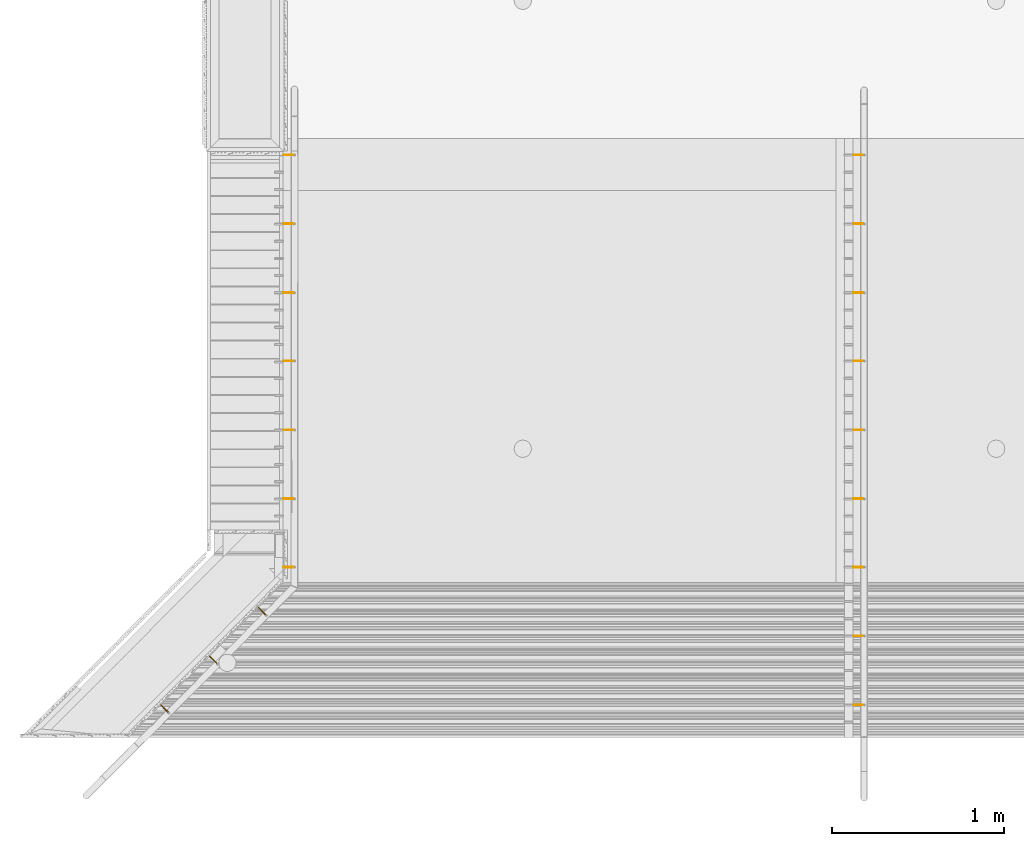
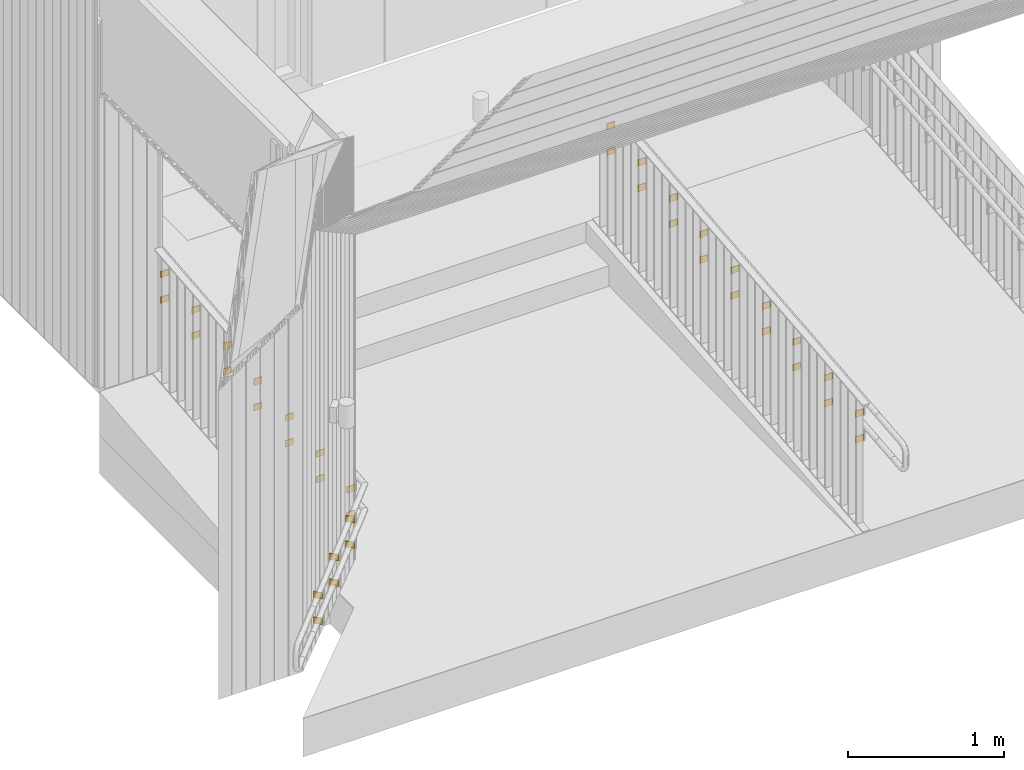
# One storey, part 165 of 418: 38 railings.
"""IFC2X3 building model written with IfcOpenShell, lengths in millimetres."""

from ifc_helpers import new_model, entity, si_unit, converted_unit, derived_unit, money_unit, direction, frame, origin_with_axes, place, context, subcontext, project, spatial, polyline, outline, extrude, material, type_object, element, save


model = new_model("IFC2X3")

# Units and contexts
model_context = context("Model", 3, precision=0.01, world=origin_with_axes(), true_north=direction((0.0, 1.0)))
body_context = subcontext(model_context, "Body", "Model", "MODEL_VIEW")
ifc_project = project(units=[si_unit("LENGTHUNIT", "METRE", prefix="MILLI"), si_unit("AREAUNIT", "SQUARE_METRE"), si_unit("VOLUMEUNIT", "CUBIC_METRE"), converted_unit("PLANEANGLEUNIT", "DEGREE", entity("IfcPlaneAngleMeasure", 0.0174532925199), si_unit("PLANEANGLEUNIT", "RADIAN"), dimensions=[0, 0, 0, 0, 0, 0, 0]), si_unit("SOLIDANGLEUNIT", "STERADIAN"), money_unit("EUR"), converted_unit("TIMEUNIT", "Year", entity("IfcTimeMeasure", 31556926.0), si_unit("TIMEUNIT", "SECOND"), dimensions=[0, 0, 1, 0, 0, 0, 0]), si_unit("MASSUNIT", "GRAM", prefix="KILO"), si_unit("THERMODYNAMICTEMPERATUREUNIT", "DEGREE_CELSIUS"), si_unit("LUMINOUSINTENSITYUNIT", "LUMEN"), si_unit("ENERGYUNIT", "JOULE", prefix="MEGA"), derived_unit("THERMALCONDUCTANCEUNIT", [(si_unit("POWERUNIT", "WATT"), 1), (si_unit("LENGTHUNIT", "METRE"), -1), (si_unit("THERMODYNAMICTEMPERATUREUNIT", "KELVIN"), -1)]), derived_unit("SPECIFICHEATCAPACITYUNIT", [(si_unit("ENERGYUNIT", "JOULE"), 1), (si_unit("MASSUNIT", "GRAM", prefix="KILO"), -1), (si_unit("THERMODYNAMICTEMPERATUREUNIT", "KELVIN"), -1)]), derived_unit("MASSDENSITYUNIT", [(si_unit("MASSUNIT", "GRAM", prefix="KILO"), 1), (si_unit("VOLUMEUNIT", "CUBIC_METRE"), -1)])], contexts=[model_context])

# Site, building, storey
site_placement = place(None, origin_with_axes())
site = spatial("IfcSite", under=ifc_project, at=site_placement, Name="Paldiski mnt 245/1, Tallinn, Harjumaa", CompositionType="COMPLEX")
building_placement = place(site_placement, origin_with_axes())
building = spatial("IfcBuilding", under=site, at=building_placement, Name="RKAS Hoone üldnimetus (kasutust iseloomustav) -> IFC Project Manager -> SOLIBRI", CompositionType="ELEMENT")
storey_placement = place(building_placement, origin_with_axes())
storey = spatial("IfcBuildingStorey", under=building, at=storey_placement, Name="Esimene korrus", CompositionType="ELEMENT", Elevation=0.0)

# Railings
ifc_material = material(Name="RAL7016")
railing_type = type_object("IfcRailingType", Name="RAL7016 50", PredefinedType="NOTDEFINED")
railing_1_placement = place(storey_placement, frame((-44261.1047143, -17949.6369404, 305.545327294), z_axis=(0.0, 0.0, 1.0), x_axis=(1.0, 0.0, 0.0)))
element("IfcRailing", 1, at=railing_1_placement, inside=storey, type_object=railing_type, material=ifc_material, Name="Piire", PredefinedType="NOTDEFINED", context=body_context, shape_type="SweptSolid", body=[
    extrude(outline(polyline([(0.0, 0.0), (-3.53553390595, -3.53553390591), (38.8908729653, -45.9619407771), (42.4264068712, -42.4264068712), (0.0, 0.0)])), frame((0.0, 0.0, -50.0), z_axis=(0.0, 0.0, 1.0), x_axis=(1.0, 0.0, 0.0)), (0.0, 0.0, 1.0), 50.0),
])
for number, where, z_axis, x_axis in (
    (2, (-44119.0, -17714.5901323, 335.178432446), (0.0, 0.0, 1.0), (1.0, 0.0, 0.0)),
    (3, (-44119.0, -16518.5901323, 454.778511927), (0.0, 0.0, 1.0), (1.0, 0.0, 0.0)),
    (4, (-44119.0, -16518.5901323, 655.200411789), (0.0, 0.0, 1.0), (1.0, 0.0, 0.0)),
):
    element("IfcRailing", number, at=place(storey_placement, frame(where, z_axis=z_axis, x_axis=x_axis)), inside=storey, type_object=railing_type, material=ifc_material, Name="Piire", PredefinedType="NOTDEFINED", context=body_context, shape_type="SweptSolid", body=[
        extrude(outline(polyline([(0.0, 0.0), (0.0, -4.99999999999), (60.0, -4.99999999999), (60.0, 0.0), (0.0, 0.0)])), frame((0.0, 0.0, -50.0), z_axis=(0.0, 0.0, 1.0), x_axis=(1.0, 0.0, 0.0)), (0.0, 0.0, 1.0), 50.0),
    ])
railing_2_placement = place(storey_placement, frame((-40810.9992191, -18114.5843011, 495.600301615), z_axis=(0.0, 0.0, 1.0), x_axis=(1.0, 0.0, 0.0)))
element("IfcRailing", 5, at=railing_2_placement, inside=storey, type_object=railing_type, material=ifc_material, Name="Piire", PredefinedType="NOTDEFINED", context=body_context, shape_type="SweptSolid", body=[
    extrude(outline(polyline([(0.0, 0.0), (0.0, -5.0), (60.0, -4.99999999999), (60.0, 0.0), (0.0, 0.0)])), frame((0.0, 0.0, -50.0), z_axis=(0.0, 0.0, 1.0), x_axis=(1.0, 0.0, 0.0)), (0.0, 0.0, 1.0), 50.0),
])
for number, where, z_axis, x_axis in (
    (6, (-40810.9992191, -15722.5843011, 734.800460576), (0.0, 0.0, 1.0), (1.0, 0.0, 0.0)),
    (7, (-40810.9992191, -15722.5843011, 534.378560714), (0.0, 0.0, 1.0), (1.0, 0.0, 0.0)),
):
    element("IfcRailing", number, at=place(storey_placement, frame(where, z_axis=z_axis, x_axis=x_axis)), inside=storey, type_object=railing_type, material=ifc_material, Name="Piire", PredefinedType="NOTDEFINED", context=body_context, shape_type="SweptSolid", body=[
        extrude(outline(polyline([(0.0, 0.0), (0.0, -4.99999999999), (60.0, -4.99999999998), (60.0, 0.0), (0.0, 0.0)])), frame((0.0, 0.0, -50.0), z_axis=(0.0, 0.0, 1.0), x_axis=(1.0, 0.0, 0.0)), (0.0, 0.0, 1.0), 50.0),
    ])
railing_3_placement = place(storey_placement, frame((-40810.9992191, -18114.5843011, 295.178401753), z_axis=(0.0, 0.0, 1.0), x_axis=(1.0, 0.0, 0.0)))
element("IfcRailing", 8, at=railing_3_placement, inside=storey, type_object=railing_type, material=ifc_material, Name="Piire", PredefinedType="NOTDEFINED", context=body_context, shape_type="SweptSolid", body=[
    extrude(outline(polyline([(0.0, 0.0), (0.0, -5.0), (60.0, -4.99999999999), (60.0, 0.0), (0.0, 0.0)])), frame((0.0, 0.0, -50.0), z_axis=(0.0, 0.0, 1.0), x_axis=(1.0, 0.0, 0.0)), (0.0, 0.0, 1.0), 50.0),
])
for number, where, z_axis, x_axis in (
    (9, (-40810.9992191, -16918.5843011, 615.200385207), (0.0, 0.0, 1.0), (1.0, 0.0, 0.0)),
    (10, (-40810.9992191, -16918.5843011, 414.778485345), (0.0, 0.0, 1.0), (1.0, 0.0, 0.0)),
):
    element("IfcRailing", number, at=place(storey_placement, frame(where, z_axis=z_axis, x_axis=x_axis)), inside=storey, type_object=railing_type, material=ifc_material, Name="Piire", PredefinedType="NOTDEFINED", context=body_context, shape_type="SweptSolid", body=[
        extrude(outline(polyline([(0.0, 0.0), (0.0, -5.0), (60.0, -4.99999999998), (60.0, 0.0), (0.0, 0.0)])), frame((0.0, 0.0, -50.0), z_axis=(0.0, 0.0, 1.0), x_axis=(1.0, 0.0, 0.0)), (0.0, 0.0, 1.0), 50.0),
    ])
for number, where, z_axis, x_axis in (
    (11, (-40810.9992191, -16122.5843011, 494.378538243), (0.0, 0.0, 1.0), (1.0, 0.0, 0.0)),
    (12, (-40810.9992191, -18514.5843011, 255.178379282), (0.0, 0.0, 1.0), (1.0, 0.0, 0.0)),
):
    element("IfcRailing", number, at=place(storey_placement, frame(where, z_axis=z_axis, x_axis=x_axis)), inside=storey, type_object=railing_type, material=ifc_material, Name="Piire", PredefinedType="NOTDEFINED", context=body_context, shape_type="SweptSolid", body=[
        extrude(outline(polyline([(0.0, 0.0), (0.0, -4.99999999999), (60.0, -4.99999999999), (60.0, 0.0), (0.0, 0.0)])), frame((0.0, 0.0, -50.0), z_axis=(0.0, 0.0, 1.0), x_axis=(1.0, 0.0, 0.0)), (0.0, 0.0, 1.0), 50.0),
    ])
for number, where, z_axis, x_axis in (
    (13, (-40810.9992191, -15322.5843011, 574.378591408), (0.0, 0.0, 1.0), (1.0, 0.0, 0.0)),
    (14, (-40810.9992191, -15322.5843011, 774.80049127), (0.0, 0.0, 1.0), (1.0, 0.0, 0.0)),
):
    element("IfcRailing", number, at=place(storey_placement, frame(where, z_axis=z_axis, x_axis=x_axis)), inside=storey, type_object=railing_type, material=ifc_material, Name="Piire", PredefinedType="NOTDEFINED", context=body_context, shape_type="SweptSolid", body=[
        extrude(outline(polyline([(0.0, 0.0), (0.0, -5.0), (60.0, -5.0), (60.0, 0.0), (0.0, 0.0)])), frame((0.0, 0.0, -50.0), z_axis=(0.0, 0.0, 1.0), x_axis=(1.0, 0.0, 0.0)), (0.0, 0.0, 1.0), 50.0),
    ])
for number, where, z_axis, x_axis in (
    (15, (-40810.9992191, -17714.5843011, 335.178432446), (0.0, 0.0, 1.0), (1.0, 0.0, 0.0)),
    (16, (-40810.9992191, -18514.5843011, 455.600279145), (0.0, 0.0, 1.0), (1.0, 0.0, 0.0)),
    (17, (-40810.9992191, -16122.5843011, 694.800438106), (0.0, 0.0, 1.0), (1.0, 0.0, 0.0)),
):
    element("IfcRailing", number, at=place(storey_placement, frame(where, z_axis=z_axis, x_axis=x_axis)), inside=storey, type_object=railing_type, material=ifc_material, Name="Piire", PredefinedType="NOTDEFINED", context=body_context, shape_type="SweptSolid", body=[
        extrude(outline(polyline([(0.0, 0.0), (0.0, -4.99999999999), (60.0, -4.99999999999), (60.0, 0.0), (0.0, 0.0)])), frame((0.0, 0.0, -50.0), z_axis=(0.0, 0.0, 1.0), x_axis=(1.0, 0.0, 0.0)), (0.0, 0.0, 1.0), 50.0),
    ])
for number, where, z_axis, x_axis in (
    (18, (-40810.9992191, -17318.5843011, 374.778454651), (0.0, 0.0, 1.0), (1.0, 0.0, 0.0)),
    (19, (-40810.9992191, -17318.5843011, 575.200354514), (0.0, 0.0, 1.0), (1.0, 0.0, 0.0)),
):
    element("IfcRailing", number, at=place(storey_placement, frame(where, z_axis=z_axis, x_axis=x_axis)), inside=storey, type_object=railing_type, material=ifc_material, Name="Piire", PredefinedType="NOTDEFINED", context=body_context, shape_type="SweptSolid", body=[
        extrude(outline(polyline([(0.0, 0.0), (0.0, -5.0), (60.0, -4.99999999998), (60.0, 0.0), (0.0, 0.0)])), frame((0.0, 0.0, -50.0), z_axis=(0.0, 0.0, 1.0), x_axis=(1.0, 0.0, 0.0)), (0.0, 0.0, 1.0), 50.0),
    ])
for number, where, z_axis, x_axis in (
    (20, (-40810.9992191, -16518.5843011, 655.200411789), (0.0, 0.0, 1.0), (1.0, 0.0, 0.0)),
    (21, (-40810.9992191, -16518.5843011, 454.778511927), (0.0, 0.0, 1.0), (1.0, 0.0, 0.0)),
    (22, (-40810.9992191, -17714.5843011, 535.600332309), (0.0, 0.0, 1.0), (1.0, 0.0, 0.0)),
):
    element("IfcRailing", number, at=place(storey_placement, frame(where, z_axis=z_axis, x_axis=x_axis)), inside=storey, type_object=railing_type, material=ifc_material, Name="Piire", PredefinedType="NOTDEFINED", context=body_context, shape_type="SweptSolid", body=[
        extrude(outline(polyline([(0.0, 0.0), (0.0, -4.99999999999), (60.0, -4.99999999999), (60.0, 0.0), (0.0, 0.0)])), frame((0.0, 0.0, -50.0), z_axis=(0.0, 0.0, 1.0), x_axis=(1.0, 0.0, 0.0)), (0.0, 0.0, 1.0), 50.0),
    ])
railing_4_placement = place(storey_placement, frame((-44543.9474268, -18232.4796529, 277.606046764), z_axis=(0.0, 0.0, 1.0), x_axis=(1.0, 0.0, 0.0)))
element("IfcRailing", 23, at=railing_4_placement, inside=storey, type_object=railing_type, material=ifc_material, Name="Piire", PredefinedType="NOTDEFINED", context=body_context, shape_type="SweptSolid", body=[
    extrude(outline(polyline([(0.0, 0.0), (-3.53553390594, -3.53553390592), (38.8908729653, -45.9619407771), (42.4264068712, -42.4264068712), (0.0, 0.0)])), frame((0.0, 0.0, -50.0), z_axis=(0.0, 0.0, 1.0), x_axis=(1.0, 0.0, 0.0)), (0.0, 0.0, 1.0), 50.0),
])
railing_5_placement = place(storey_placement, frame((-44119.0, -15722.5901323, 734.800460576), z_axis=(0.0, 0.0, 1.0), x_axis=(1.0, 0.0, 0.0)))
element("IfcRailing", 24, at=railing_5_placement, inside=storey, type_object=railing_type, material=ifc_material, Name="Piire", PredefinedType="NOTDEFINED", context=body_context, shape_type="SweptSolid", body=[
    extrude(outline(polyline([(0.0, 0.0), (0.0, -4.99999999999), (60.0, -4.99999999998), (60.0, 0.0), (0.0, 0.0)])), frame((0.0, 0.0, -50.0), z_axis=(0.0, 0.0, 1.0), x_axis=(1.0, 0.0, 0.0)), (0.0, 0.0, 1.0), 50.0),
])
railing_6_placement = place(storey_placement, frame((-44119.0, -15322.5901323, 774.80049127), z_axis=(0.0, 0.0, 1.0), x_axis=(1.0, 0.0, 0.0)))
element("IfcRailing", 25, at=railing_6_placement, inside=storey, type_object=railing_type, material=ifc_material, Name="Piire", PredefinedType="NOTDEFINED", context=body_context, shape_type="SweptSolid", body=[
    extrude(outline(polyline([(0.0, 0.0), (0.0, -5.0), (60.0, -4.99999999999), (60.0, 0.0), (0.0, 0.0)])), frame((0.0, 0.0, -50.0), z_axis=(0.0, 0.0, 1.0), x_axis=(1.0, 0.0, 0.0)), (0.0, 0.0, 1.0), 50.0),
])
railing_7_placement = place(storey_placement, frame((-44261.1047143, -17949.6369404, 505.196086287), z_axis=(0.0, 0.0, 1.0), x_axis=(1.0, 0.0, 0.0)))
element("IfcRailing", 26, at=railing_7_placement, inside=storey, type_object=railing_type, material=ifc_material, Name="Piire", PredefinedType="NOTDEFINED", context=body_context, shape_type="SweptSolid", body=[
    extrude(outline(polyline([(0.0, 0.0), (-3.53553390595, -3.53553390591), (38.8908729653, -45.9619407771), (42.4264068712, -42.4264068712), (0.0, 0.0)])), frame((0.0, 0.0, -50.0), z_axis=(0.0, 0.0, 1.0), x_axis=(1.0, 0.0, 0.0)), (0.0, 0.0, 1.0), 50.0),
])
railing_8_placement = place(storey_placement, frame((-44119.0, -15322.5901323, 574.378591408), z_axis=(0.0, 0.0, 1.0), x_axis=(1.0, 0.0, 0.0)))
element("IfcRailing", 27, at=railing_8_placement, inside=storey, type_object=railing_type, material=ifc_material, Name="Piire", PredefinedType="NOTDEFINED", context=body_context, shape_type="SweptSolid", body=[
    extrude(outline(polyline([(0.0, 0.0), (0.0, -5.0), (60.0, -4.99999999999), (60.0, 0.0), (0.0, 0.0)])), frame((0.0, 0.0, -50.0), z_axis=(0.0, 0.0, 1.0), x_axis=(1.0, 0.0, 0.0)), (0.0, 0.0, 1.0), 50.0),
])
railing_9_placement = place(storey_placement, frame((-44119.0, -16122.5901323, 494.378538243), z_axis=(0.0, 0.0, 1.0), x_axis=(1.0, 0.0, 0.0)))
element("IfcRailing", 28, at=railing_9_placement, inside=storey, type_object=railing_type, material=ifc_material, Name="Piire", PredefinedType="NOTDEFINED", context=body_context, shape_type="SweptSolid", body=[
    extrude(outline(polyline([(0.0, 0.0), (0.0, -4.99999999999), (60.0, -4.99999999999), (60.0, 0.0), (0.0, 0.0)])), frame((0.0, 0.0, -50.0), z_axis=(0.0, 0.0, 1.0), x_axis=(1.0, 0.0, 0.0)), (0.0, 0.0, 1.0), 50.0),
])
railing_10_placement = place(storey_placement, frame((-44119.0, -15722.5901323, 534.378560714), z_axis=(0.0, 0.0, 1.0), x_axis=(1.0, 0.0, 0.0)))
element("IfcRailing", 29, at=railing_10_placement, inside=storey, type_object=railing_type, material=ifc_material, Name="Piire", PredefinedType="NOTDEFINED", context=body_context, shape_type="SweptSolid", body=[
    extrude(outline(polyline([(0.0, 0.0), (0.0, -4.99999999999), (60.0, -4.99999999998), (60.0, 0.0), (0.0, 0.0)])), frame((0.0, 0.0, -50.0), z_axis=(0.0, 0.0, 1.0), x_axis=(1.0, 0.0, 0.0)), (0.0, 0.0, 1.0), 50.0),
])
for number, where, z_axis, x_axis in (
    (30, (-44119.0, -16918.5901323, 615.200385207), (0.0, 0.0, 1.0), (1.0, 0.0, 0.0)),
    (31, (-44119.0, -16918.5901323, 414.778485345), (0.0, 0.0, 1.0), (1.0, 0.0, 0.0)),
):
    element("IfcRailing", number, at=place(storey_placement, frame(where, z_axis=z_axis, x_axis=x_axis)), inside=storey, type_object=railing_type, material=ifc_material, Name="Piire", PredefinedType="NOTDEFINED", context=body_context, shape_type="SweptSolid", body=[
        extrude(outline(polyline([(0.0, 0.0), (0.0, -5.0), (60.0, -4.99999999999), (60.0, 0.0), (0.0, 0.0)])), frame((0.0, 0.0, -50.0), z_axis=(0.0, 0.0, 1.0), x_axis=(1.0, 0.0, 0.0)), (0.0, 0.0, 1.0), 50.0),
    ])
railing_11_placement = place(storey_placement, frame((-44119.0, -17318.5901323, 575.200354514), z_axis=(0.0, 0.0, 1.0), x_axis=(1.0, 0.0, 0.0)))
element("IfcRailing", 32, at=railing_11_placement, inside=storey, type_object=railing_type, material=ifc_material, Name="Piire", PredefinedType="NOTDEFINED", context=body_context, shape_type="SweptSolid", body=[
    extrude(outline(polyline([(0.0, 0.0), (0.0, -5.0), (60.0, -4.99999999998), (60.0, 0.0), (0.0, 0.0)])), frame((0.0, 0.0, -50.0), z_axis=(0.0, 0.0, 1.0), x_axis=(1.0, 0.0, 0.0)), (0.0, 0.0, 1.0), 50.0),
])
railing_12_placement = place(storey_placement, frame((-44826.983903, -18515.3223653, 450.017583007), z_axis=(0.0, 0.0, 1.0), x_axis=(1.0, 0.0, 0.0)))
element("IfcRailing", 33, at=railing_12_placement, inside=storey, type_object=railing_type, material=ifc_material, Name="Piire", PredefinedType="NOTDEFINED", context=body_context, shape_type="SweptSolid", body=[
    extrude(outline(polyline([(0.0, 0.0), (-3.53553390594, -3.53553390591), (38.8908729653, -45.9619407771), (42.4264068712, -42.4264068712), (0.0, 0.0)])), frame((0.0, 0.0, -50.0), z_axis=(0.0, 0.0, 1.0), x_axis=(1.0, 0.0, 0.0)), (0.0, 0.0, 1.0), 50.0),
])
railing_13_placement = place(storey_placement, frame((-44119.0, -17318.5901323, 374.778454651), z_axis=(0.0, 0.0, 1.0), x_axis=(1.0, 0.0, 0.0)))
element("IfcRailing", 34, at=railing_13_placement, inside=storey, type_object=railing_type, material=ifc_material, Name="Piire", PredefinedType="NOTDEFINED", context=body_context, shape_type="SweptSolid", body=[
    extrude(outline(polyline([(0.0, 0.0), (0.0, -5.0), (60.0, -4.99999999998), (60.0, 0.0), (0.0, 0.0)])), frame((0.0, 0.0, -50.0), z_axis=(0.0, 0.0, 1.0), x_axis=(1.0, 0.0, 0.0)), (0.0, 0.0, 1.0), 50.0),
])
railing_14_placement = place(storey_placement, frame((-44543.9474268, -18232.4796529, 478.027946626), z_axis=(0.0, 0.0, 1.0), x_axis=(1.0, 0.0, 0.0)))
element("IfcRailing", 35, at=railing_14_placement, inside=storey, type_object=railing_type, material=ifc_material, Name="Piire", PredefinedType="NOTDEFINED", context=body_context, shape_type="SweptSolid", body=[
    extrude(outline(polyline([(0.0, 0.0), (-3.53553390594, -3.53553390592), (38.8908729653, -45.9619407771), (42.4264068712, -42.4264068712), (0.0, 0.0)])), frame((0.0, 0.0, -50.0), z_axis=(0.0, 0.0, 1.0), x_axis=(1.0, 0.0, 0.0)), (0.0, 0.0, 1.0), 50.0),
])
railing_15_placement = place(storey_placement, frame((-44826.983903, -18515.3223653, 249.595683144), z_axis=(0.0, 0.0, 1.0), x_axis=(1.0, 0.0, 0.0)))
element("IfcRailing", 36, at=railing_15_placement, inside=storey, type_object=railing_type, material=ifc_material, Name="Piire", PredefinedType="NOTDEFINED", context=body_context, shape_type="SweptSolid", body=[
    extrude(outline(polyline([(0.0, 0.0), (-3.53553390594, -3.53553390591), (38.8908729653, -45.9619407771), (42.4264068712, -42.4264068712), (0.0, 0.0)])), frame((0.0, 0.0, -50.0), z_axis=(0.0, 0.0, 1.0), x_axis=(1.0, 0.0, 0.0)), (0.0, 0.0, 1.0), 50.0),
])
for number, where, z_axis, x_axis in (
    (37, (-44119.0, -16122.5901323, 694.800438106), (0.0, 0.0, 1.0), (1.0, 0.0, 0.0)),
    (38, (-44119.0, -17714.5901323, 535.600332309), (0.0, 0.0, 1.0), (1.0, 0.0, 0.0)),
):
    element("IfcRailing", number, at=place(storey_placement, frame(where, z_axis=z_axis, x_axis=x_axis)), inside=storey, type_object=railing_type, material=ifc_material, Name="Piire", PredefinedType="NOTDEFINED", context=body_context, shape_type="SweptSolid", body=[
        extrude(outline(polyline([(0.0, 0.0), (0.0, -4.99999999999), (60.0, -4.99999999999), (60.0, 0.0), (0.0, 0.0)])), frame((0.0, 0.0, -50.0), z_axis=(0.0, 0.0, 1.0), x_axis=(1.0, 0.0, 0.0)), (0.0, 0.0, 1.0), 50.0),
    ])

save(model, "model.ifc")
